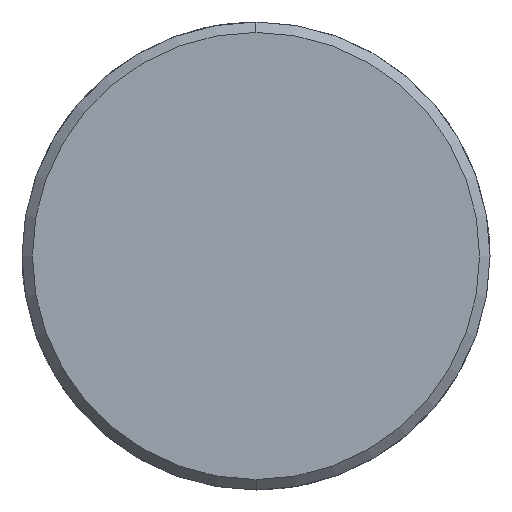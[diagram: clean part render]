
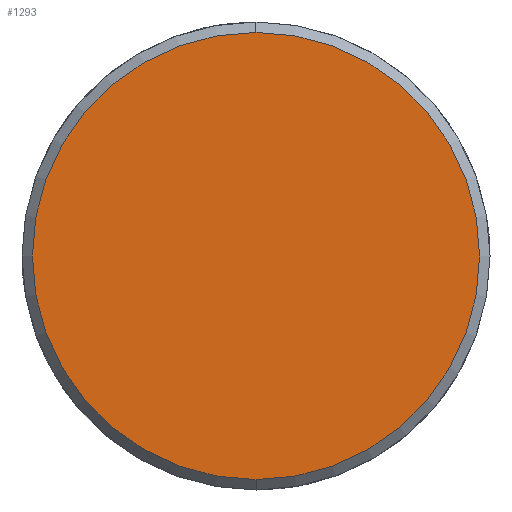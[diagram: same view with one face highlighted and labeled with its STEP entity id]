
A CAD part, left-side view. The second image highlights one B-rep face of the part: STEP entity #1293.
In plain terms, the highlighted planar face has unit normal (-1, 0, 0).
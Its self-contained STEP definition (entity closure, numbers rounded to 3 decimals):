
#1225=CARTESIAN_POINT('Vertex',(-7.,0.,-21.5)) ;
#1228=CARTESIAN_POINT('Axis2P3D Location',(-7.,0.,0.)) ;
#1232=CARTESIAN_POINT('Vertex',(-7.,21.5,0.)) ;
#1235=CARTESIAN_POINT('Axis2P3D Location',(-7.,0.,0.)) ;
#1239=CARTESIAN_POINT('Vertex',(-7.,0.,21.5)) ;
#1261=CARTESIAN_POINT('Axis2P3D Location',(-7.,0.,0.)) ;
#1265=CARTESIAN_POINT('Vertex',(-7.,-21.5,0.)) ;
#1268=CARTESIAN_POINT('Axis2P3D Location',(-7.,0.,0.)) ;
#1282=CARTESIAN_POINT('Axis2P3D Location',(-7.,0.,0.)) ;
#1229=DIRECTION('Axis2P3D Direction',(1.,0.,-0.)) ;
#1236=DIRECTION('Axis2P3D Direction',(1.,0.,-0.)) ;
#1262=DIRECTION('Axis2P3D Direction',(1.,0.,-0.)) ;
#1269=DIRECTION('Axis2P3D Direction',(1.,0.,-0.)) ;
#1283=DIRECTION('Axis2P3D Direction',(1.,0.,-0.)) ;
#1284=DIRECTION('Axis2P3D XDirection',(-0.,0.,-1.)) ;
#1230=AXIS2_PLACEMENT_3D('Circle Axis2P3D',#1228,#1229,$) ;
#1237=AXIS2_PLACEMENT_3D('Circle Axis2P3D',#1235,#1236,$) ;
#1263=AXIS2_PLACEMENT_3D('Circle Axis2P3D',#1261,#1262,$) ;
#1270=AXIS2_PLACEMENT_3D('Circle Axis2P3D',#1268,#1269,$) ;
#1285=AXIS2_PLACEMENT_3D('Plane Axis2P3D',#1282,#1283,#1284) ;
#1288=ORIENTED_EDGE('',*,*,#1234,.F.) ;
#1289=ORIENTED_EDGE('',*,*,#1272,.F.) ;
#1290=ORIENTED_EDGE('',*,*,#1267,.F.) ;
#1291=ORIENTED_EDGE('',*,*,#1241,.F.) ;
#1293=ADVANCED_FACE('351-32X126X300',(#1292),#1286,.F.) ;
#1231=CIRCLE('generated circle',#1230,21.5) ;
#1238=CIRCLE('generated circle',#1237,21.5) ;
#1264=CIRCLE('generated circle',#1263,21.5) ;
#1271=CIRCLE('generated circle',#1270,21.5) ;
#1234=EDGE_CURVE('',#1226,#1233,#1231,.T.) ;
#1241=EDGE_CURVE('',#1233,#1240,#1238,.T.) ;
#1267=EDGE_CURVE('',#1240,#1266,#1264,.T.) ;
#1272=EDGE_CURVE('',#1266,#1226,#1271,.T.) ;
#1287=EDGE_LOOP('',(#1288,#1289,#1290,#1291)) ;
#1292=FACE_OUTER_BOUND('',#1287,.T.) ;
#1286=PLANE('Plane',#1285) ;
#1226=VERTEX_POINT('',#1225) ;
#1233=VERTEX_POINT('',#1232) ;
#1240=VERTEX_POINT('',#1239) ;
#1266=VERTEX_POINT('',#1265) ;
